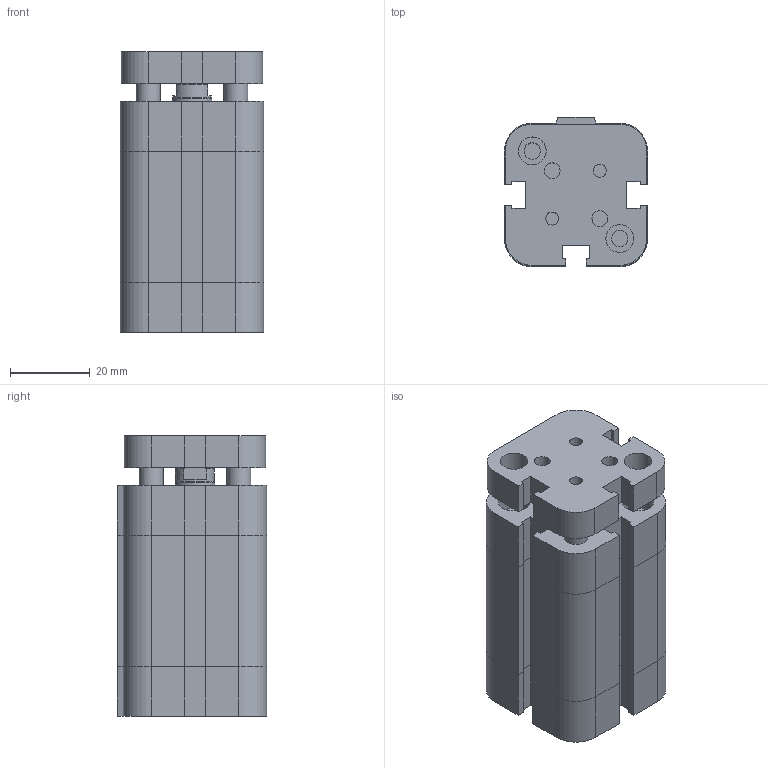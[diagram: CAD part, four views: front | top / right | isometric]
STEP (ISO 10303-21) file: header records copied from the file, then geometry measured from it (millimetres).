
FILE_DESCRIPTION((''),'2;1');
FILE_NAME('I:\Area Tecnica\Disegni\VARIE-3D\Componenti\EUROPE\15##_###_####_07_#\1581_20_0020_07_1.iam.stp','2009-04-20T15:19:42',(''),(''),'Autodesk Inventor 2009','Autodesk Inventor 2009','');
FILE_SCHEMA(('AUTOMOTIVE_DESIGN { 1 0 10303 214 1 1 1 1 }'));
Length unit declared in the file: millimetre
Products named in the file (3): 1581_20_0020_07_1; 1581_20_0020_07_1_C; 1561_20_0020_07_1_SA
Assembly tree (2 placements, depth 2):
  1581_20_0020_07_1
    1581_20_0020_07_1_C
    1561_20_0020_07_1_SA
Bounding box: 36 x 37.5 x 70.5 mm (x, y, z)
Volume: 74820.7 mm3; surface area: 23448.3 mm2
Topology: 2 solids, 2 shells, 206 faces, 483 edges, 301 vertices
Faces by surface type: plane 135, bspline 44, cylinder 21, cone 6
Full cylindrical faces by diameter (mm): 6 x2, 9.8 x2, 10 x1
Entity records: 6055 total; most frequent: CARTESIAN_POINT 1405, ORIENTED_EDGE 876, DIRECTION 854, EDGE_CURVE 438, VECTOR 340, LINE 340, VERTEX_POINT 286, EDGE_LOOP 268
